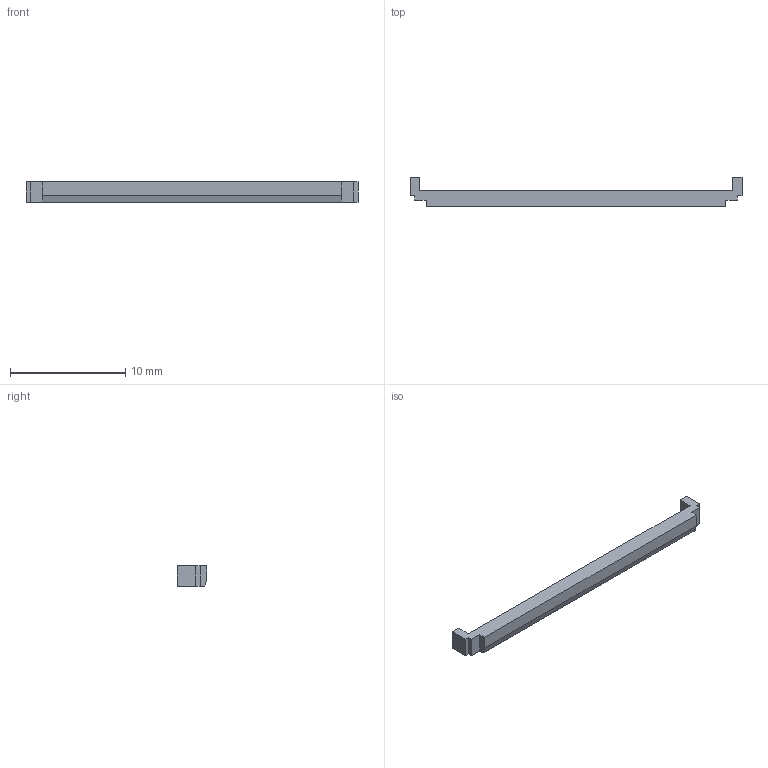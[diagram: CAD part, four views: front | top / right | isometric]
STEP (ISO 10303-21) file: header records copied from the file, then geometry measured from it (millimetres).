
FILE_DESCRIPTION(('Open CASCADE Model'),'2;1');
FILE_NAME('Open CASCADE Shape Model','2026-09-30T21:50:24',('Author'),( 'Open CASCADE'),'Open CASCADE STEP processor 7.9','Open CASCADE 7.9' ,'Unknown');
FILE_SCHEMA(('AUTOMOTIVE_DESIGN { 1 0 10303 214 1 1 1 1 }'));
Length unit declared in the file: millimetre
Products named in the file (1): Open CASCADE STEP translator 7.9 3
Bounding box: 28.8 x 2.58 x 1.75 mm (x, y, z)
Volume: 68.1 mm3; surface area: 189.4 mm2
Topology: 1 solids, 1 shells, 19 faces, 51 edges, 34 vertices
Faces by surface type: plane 19
Entity records: 1247 total; most frequent: CARTESIAN_POINT 218, DIRECTION 182, LINE 142, VECTOR 142, ORIENTED_EDGE 102, PCURVE 102, DEFINITIONAL_REPRESENTATION 102, EDGE_CURVE 51
